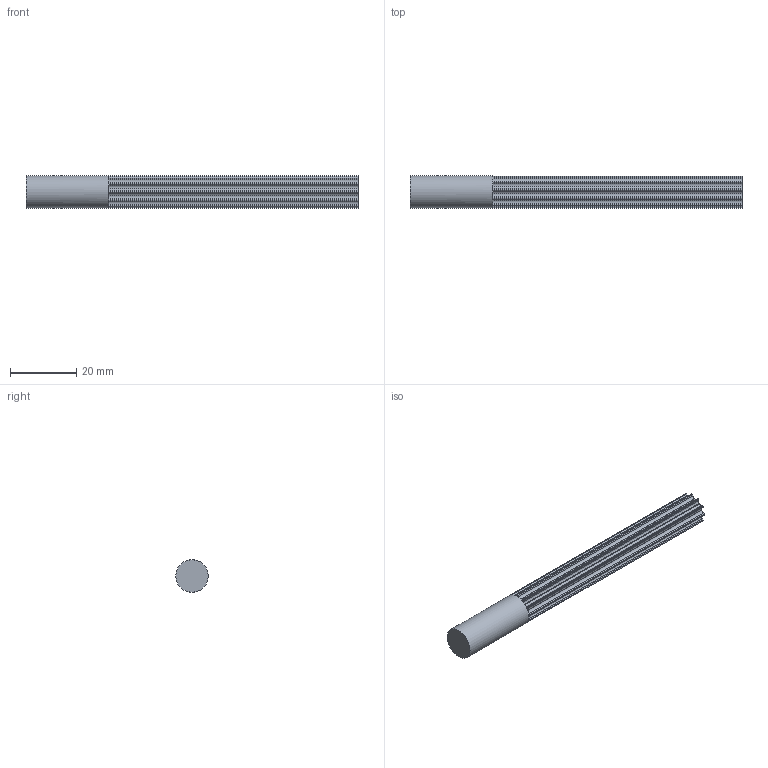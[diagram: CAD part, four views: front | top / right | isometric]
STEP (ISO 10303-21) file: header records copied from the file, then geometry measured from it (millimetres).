
FILE_DESCRIPTION( ( 'STEP AP214' ), '1' );
FILE_NAME( 'C:/Users/StangenbergN/Desktop/Steps Zahnriemenräder/K166_HTD-Zahnwellen/17091100.stp', '2019-06-06T09:33:10', ( '' ), ( '' ), ' ', 'PARTsolutions', ' ' );
FILE_SCHEMA( ( 'AUTOMOTIVE_DESIGN { 1 0 10303 214 1 1 1 1 }' ) );
Length unit declared in the file: millimetre
Products named in the file (1): _17091100
Bounding box: 100 x 9.74 x 9.74 mm (x, y, z)
Volume: 5788.4 mm3; surface area: 3938.9 mm2
Topology: 1 solids, 1 shells, 91 faces, 267 edges, 178 vertices
Faces by surface type: plane 46, cylinder 45
Full cylindrical faces by diameter (mm): 9.74 x1
Entity records: 3802 total; most frequent: DIRECTION 560, CARTESIAN_POINT 534, ORIENTED_EDGE 530, EDGE_CURVE 265, AXIS2_PLACEMENT_3D 203, VERTEX_POINT 177, LINE 154, VECTOR 154
